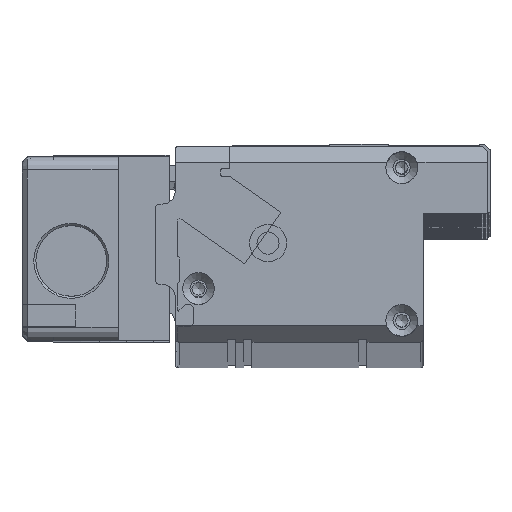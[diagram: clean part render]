
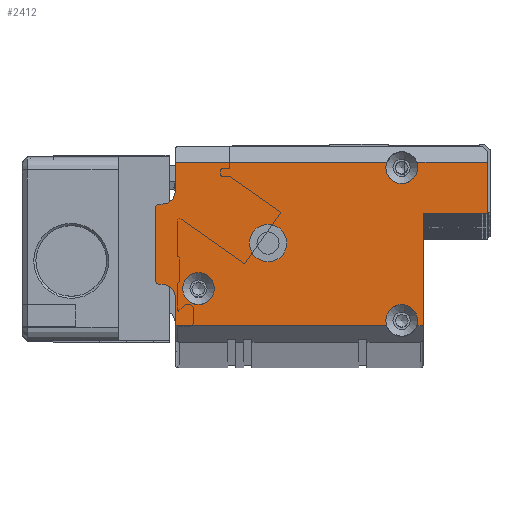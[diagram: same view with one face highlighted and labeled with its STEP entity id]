
A CAD part, top view. The second image highlights one B-rep face of the part: STEP entity #2412.
In plain terms, the highlighted planar face has unit normal (0, 0, 1).
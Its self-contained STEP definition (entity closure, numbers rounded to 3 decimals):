
#2412=ADVANCED_FACE('',(#10285,#10286,#10287),#3855,.T.);
#3855=PLANE('',#29186);
#4830=LINE('',#40554,#7584);
#4831=LINE('',#40556,#7585);
#4832=LINE('',#40560,#7586);
#4833=LINE('',#40564,#7587);
#4834=LINE('',#40566,#7588);
#4835=LINE('',#40570,#7589);
#4836=LINE('',#40572,#7590);
#4837=LINE('',#40576,#7591);
#4838=LINE('',#40580,#7592);
#4839=LINE('',#40584,#7593);
#4840=LINE('',#40588,#7594);
#4841=LINE('',#40590,#7595);
#7584=VECTOR('',#32167,1.);
#7585=VECTOR('',#32168,1.);
#7586=VECTOR('',#32171,1.);
#7587=VECTOR('',#32174,1.);
#7588=VECTOR('',#32175,1.);
#7589=VECTOR('',#32178,1.);
#7590=VECTOR('',#32179,1.);
#7591=VECTOR('',#32182,1.);
#7592=VECTOR('',#32185,1.);
#7593=VECTOR('',#32188,1.);
#7594=VECTOR('',#32191,1.);
#7595=VECTOR('',#32192,1.);
#10285=FACE_BOUND('',#10696,.T.);
#10286=FACE_BOUND('',#10697,.T.);
#10287=FACE_BOUND('',#10698,.T.);
#10696=EDGE_LOOP('',(#12562));
#10697=EDGE_LOOP('',(#12563,#12564,#12565,#12566,#12567,#12568,#12569,#12570,
#12571,#12572,#12573,#12574,#12575,#12576,#12577,#12578,#12579,#12580,#12581,
#12582));
#10698=EDGE_LOOP('',(#12583));
#12562=ORIENTED_EDGE('',*,*,#23839,.T.);
#12563=ORIENTED_EDGE('',*,*,#23840,.T.);
#12564=ORIENTED_EDGE('',*,*,#23841,.T.);
#12565=ORIENTED_EDGE('',*,*,#23842,.T.);
#12566=ORIENTED_EDGE('',*,*,#23843,.T.);
#12567=ORIENTED_EDGE('',*,*,#23844,.T.);
#12568=ORIENTED_EDGE('',*,*,#23845,.T.);
#12569=ORIENTED_EDGE('',*,*,#23846,.T.);
#12570=ORIENTED_EDGE('',*,*,#23847,.T.);
#12571=ORIENTED_EDGE('',*,*,#23848,.T.);
#12572=ORIENTED_EDGE('',*,*,#23849,.T.);
#12573=ORIENTED_EDGE('',*,*,#23850,.T.);
#12574=ORIENTED_EDGE('',*,*,#23851,.T.);
#12575=ORIENTED_EDGE('',*,*,#23852,.T.);
#12576=ORIENTED_EDGE('',*,*,#23853,.T.);
#12577=ORIENTED_EDGE('',*,*,#23854,.T.);
#12578=ORIENTED_EDGE('',*,*,#23855,.T.);
#12579=ORIENTED_EDGE('',*,*,#23856,.T.);
#12580=ORIENTED_EDGE('',*,*,#23857,.T.);
#12581=ORIENTED_EDGE('',*,*,#23858,.T.);
#12582=ORIENTED_EDGE('',*,*,#23859,.T.);
#12583=ORIENTED_EDGE('',*,*,#23860,.T.);
#20920=VERTEX_POINT('',#40550);
#20921=VERTEX_POINT('',#40552);
#20922=VERTEX_POINT('',#40553);
#20923=VERTEX_POINT('',#40555);
#20924=VERTEX_POINT('',#40557);
#20925=VERTEX_POINT('',#40559);
#20926=VERTEX_POINT('',#40561);
#20927=VERTEX_POINT('',#40563);
#20928=VERTEX_POINT('',#40565);
#20929=VERTEX_POINT('',#40567);
#20930=VERTEX_POINT('',#40569);
#20931=VERTEX_POINT('',#40571);
#20932=VERTEX_POINT('',#40573);
#20933=VERTEX_POINT('',#40575);
#20934=VERTEX_POINT('',#40577);
#20935=VERTEX_POINT('',#40579);
#20936=VERTEX_POINT('',#40581);
#20937=VERTEX_POINT('',#40583);
#20938=VERTEX_POINT('',#40585);
#20939=VERTEX_POINT('',#40587);
#20940=VERTEX_POINT('',#40589);
#20941=VERTEX_POINT('',#40592);
#23839=EDGE_CURVE('',#20920,#20920,#28006,.T.);
#23840=EDGE_CURVE('',#20921,#20922,#28007,.T.);
#23841=EDGE_CURVE('',#20922,#20923,#4830,.T.);
#23842=EDGE_CURVE('',#20923,#20924,#4831,.T.);
#23843=EDGE_CURVE('',#20924,#20925,#28008,.T.);
#23844=EDGE_CURVE('',#20925,#20926,#4832,.T.);
#23845=EDGE_CURVE('',#20926,#20927,#28009,.T.);
#23846=EDGE_CURVE('',#20927,#20928,#4833,.T.);
#23847=EDGE_CURVE('',#20928,#20929,#4834,.T.);
#23848=EDGE_CURVE('',#20929,#20930,#28010,.T.);
#23849=EDGE_CURVE('',#20930,#20931,#4835,.T.);
#23850=EDGE_CURVE('',#20931,#20932,#4836,.T.);
#23851=EDGE_CURVE('',#20932,#20933,#28011,.T.);
#23852=EDGE_CURVE('',#20933,#20934,#4837,.T.);
#23853=EDGE_CURVE('',#20934,#20935,#28012,.T.);
#23854=EDGE_CURVE('',#20935,#20936,#4838,.T.);
#23855=EDGE_CURVE('',#20936,#20937,#28013,.T.);
#23856=EDGE_CURVE('',#20937,#20938,#4839,.T.);
#23857=EDGE_CURVE('',#20938,#20939,#28014,.T.);
#23858=EDGE_CURVE('',#20939,#20940,#4840,.T.);
#23859=EDGE_CURVE('',#20940,#20921,#4841,.T.);
#23860=EDGE_CURVE('',#20941,#20941,#28015,.T.);
#28006=CIRCLE('',#29176,3.);
#28007=CIRCLE('',#29177,3.);
#28008=CIRCLE('',#29178,0.5);
#28009=CIRCLE('',#29179,0.5);
#28010=CIRCLE('',#29180,3.);
#28011=CIRCLE('',#29181,2.5);
#28012=CIRCLE('',#29182,0.5);
#28013=CIRCLE('',#29183,0.5);
#28014=CIRCLE('',#29184,2.5);
#28015=CIRCLE('',#29185,3.5);
#29176=AXIS2_PLACEMENT_3D('',#40549,#32163,#32164);
#29177=AXIS2_PLACEMENT_3D('',#40551,#32165,#32166);
#29178=AXIS2_PLACEMENT_3D('',#40558,#32169,#32170);
#29179=AXIS2_PLACEMENT_3D('',#40562,#32172,#32173);
#29180=AXIS2_PLACEMENT_3D('',#40568,#32176,#32177);
#29181=AXIS2_PLACEMENT_3D('',#40574,#32180,#32181);
#29182=AXIS2_PLACEMENT_3D('',#40578,#32183,#32184);
#29183=AXIS2_PLACEMENT_3D('',#40582,#32186,#32187);
#29184=AXIS2_PLACEMENT_3D('',#40586,#32189,#32190);
#29185=AXIS2_PLACEMENT_3D('',#40591,#32193,#32194);
#29186=AXIS2_PLACEMENT_3D('',#40593,#32195,#32196);
#32163=DIRECTION('',(0.,0.,-1.));
#32164=DIRECTION('',(-1.,0.,0.));
#32165=DIRECTION('',(0.,0.,-1.));
#32166=DIRECTION('',(-1.,0.,0.));
#32167=DIRECTION('',(1.,0.,0.));
#32168=DIRECTION('',(0.,1.,0.));
#32169=DIRECTION('',(0.,0.,-1.));
#32170=DIRECTION('',(1.,0.,0.));
#32171=DIRECTION('',(1.,0.,0.));
#32172=DIRECTION('',(0.,0.,1.));
#32173=DIRECTION('',(1.,0.,0.));
#32174=DIRECTION('',(0.,1.,0.));
#32175=DIRECTION('',(-1.,0.,0.));
#32176=DIRECTION('',(0.,0.,-1.));
#32177=DIRECTION('',(-1.,0.,0.));
#32178=DIRECTION('',(-1.,0.,0.));
#32179=DIRECTION('',(0.,-1.,0.));
#32180=DIRECTION('',(0.,0.,-1.));
#32181=DIRECTION('',(1.,0.,0.));
#32182=DIRECTION('',(-1.,0.,0.));
#32183=DIRECTION('',(0.,0.,1.));
#32184=DIRECTION('',(1.,0.,0.));
#32185=DIRECTION('',(0.,-1.,0.));
#32186=DIRECTION('',(0.,0.,1.));
#32187=DIRECTION('',(1.,0.,0.));
#32188=DIRECTION('',(1.,0.,0.));
#32189=DIRECTION('',(0.,0.,-1.));
#32190=DIRECTION('',(1.,0.,0.));
#32191=DIRECTION('',(0.,-1.,0.));
#32192=DIRECTION('',(1.,0.,0.));
#32193=DIRECTION('',(0.,0.,-1.));
#32194=DIRECTION('',(-1.,0.,0.));
#32195=DIRECTION('',(0.,0.,1.));
#32196=DIRECTION('',(-1.,0.,0.));
#40549=CARTESIAN_POINT('',(8.,-26.6,8.));
#40550=CARTESIAN_POINT('',(5.,-26.6,8.));
#40551=CARTESIAN_POINT('',(46.,-32.6,8.));
#40552=CARTESIAN_POINT('',(43.172,-33.6,8.));
#40553=CARTESIAN_POINT('',(48.828,-33.6,8.));
#40554=CARTESIAN_POINT('',(50.,-33.6,8.));
#40555=CARTESIAN_POINT('',(50.,-33.6,8.));
#40556=CARTESIAN_POINT('',(50.,-36.6,8.));
#40557=CARTESIAN_POINT('',(50.,-13.1,8.));
#40558=CARTESIAN_POINT('',(50.5,-13.1,8.));
#40559=CARTESIAN_POINT('',(50.5,-12.6,8.));
#40560=CARTESIAN_POINT('',(50.,-12.6,8.));
#40561=CARTESIAN_POINT('',(61.6,-12.6,8.));
#40562=CARTESIAN_POINT('',(61.6,-12.1,8.));
#40563=CARTESIAN_POINT('',(62.1,-12.1,8.));
#40564=CARTESIAN_POINT('',(62.1,-12.6,8.));
#40565=CARTESIAN_POINT('',(62.1,-3.,8.));
#40566=CARTESIAN_POINT('',(3.7,-3.,8.));
#40567=CARTESIAN_POINT('',(48.828,-3.,8.));
#40568=CARTESIAN_POINT('',(46.,-4.,8.));
#40569=CARTESIAN_POINT('',(43.172,-3.,8.));
#40570=CARTESIAN_POINT('',(3.7,-3.,8.));
#40571=CARTESIAN_POINT('',(3.7,-3.,8.));
#40572=CARTESIAN_POINT('',(3.7,0.,8.));
#40573=CARTESIAN_POINT('',(3.7,-8.3,8.));
#40574=CARTESIAN_POINT('',(1.2,-8.3,8.));
#40575=CARTESIAN_POINT('',(1.2,-10.8,8.));
#40576=CARTESIAN_POINT('',(3.7,-10.8,8.));
#40577=CARTESIAN_POINT('',(0.5,-10.8,8.));
#40578=CARTESIAN_POINT('',(0.5,-11.3,8.));
#40579=CARTESIAN_POINT('',(0.,-11.3,8.));
#40580=CARTESIAN_POINT('',(0.,-10.8,8.));
#40581=CARTESIAN_POINT('',(0.,-25.3,8.));
#40582=CARTESIAN_POINT('',(0.5,-25.3,8.));
#40583=CARTESIAN_POINT('',(0.5,-25.8,8.));
#40584=CARTESIAN_POINT('',(0.,-25.8,8.));
#40585=CARTESIAN_POINT('',(1.2,-25.8,8.));
#40586=CARTESIAN_POINT('',(1.2,-28.3,8.));
#40587=CARTESIAN_POINT('',(3.7,-28.3,8.));
#40588=CARTESIAN_POINT('',(3.7,-25.8,8.));
#40589=CARTESIAN_POINT('',(3.7,-33.6,8.));
#40590=CARTESIAN_POINT('',(50.,-33.6,8.));
#40591=CARTESIAN_POINT('',(21.,-18.1,8.));
#40592=CARTESIAN_POINT('',(17.5,-18.1,8.));
#40593=CARTESIAN_POINT('',(0.,0.,8.));
